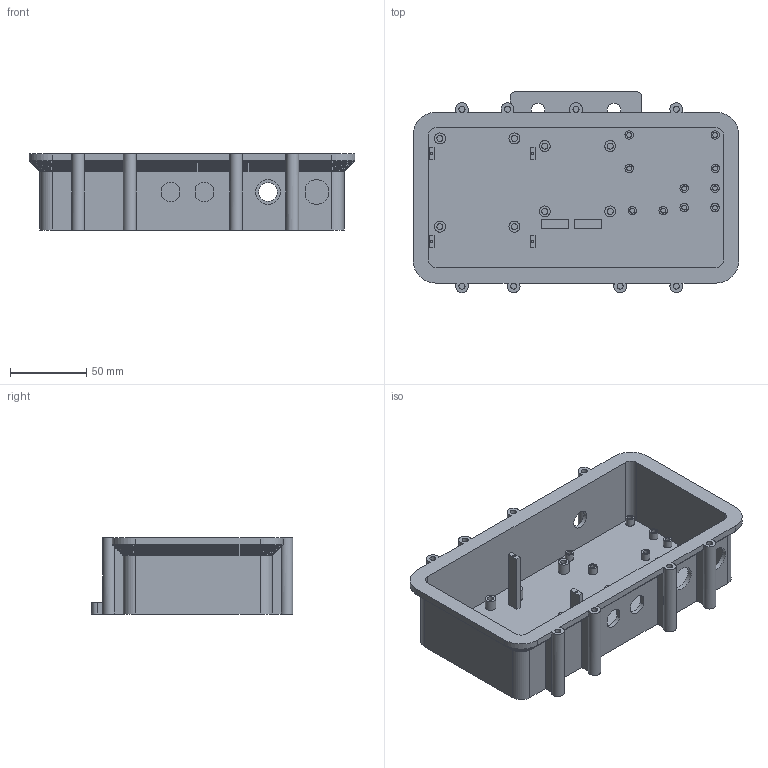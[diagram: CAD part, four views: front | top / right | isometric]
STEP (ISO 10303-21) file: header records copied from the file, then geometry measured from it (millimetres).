
FILE_DESCRIPTION(('FreeCAD Model'),'2;1');
FILE_NAME('Open CASCADE Shape Model','2026-09-10T22:55:30',( '' ),( '' ),'Open CASCADE STEP processor 7.8','FreeCAD','Unknown');
FILE_SCHEMA(('AUTOMOTIVE_DESIGN { 1 0 10303 214 1 1 1 1 }'));
Length unit declared in the file: millimetre
Products named in the file (1): Open CASCADE STEP translator 7.8 10
Bounding box: 214.4 x 132.4 x 50 mm (x, y, z)
Volume: 224011.5 mm3; surface area: 125287.6 mm2
Topology: 1 solids, 1 shells, 646 faces, 1787 edges, 1196 vertices
Faces by surface type: plane 498, cylinder 148
Full cylindrical faces by diameter (mm): 1.6 x4, 3.2 x10, 4 x16, 5.5 x10, 7.2 x8, 9 x2, 12.2 x1, 16.2 x1
Entity records: 20606 total; most frequent: CARTESIAN_POINT 3630, ORIENTED_EDGE 3574, DIRECTION 3458, EDGE_CURVE 1787, LINE 1410, VECTOR 1410, VERTEX_POINT 1196, AXIS2_PLACEMENT_3D 1024
